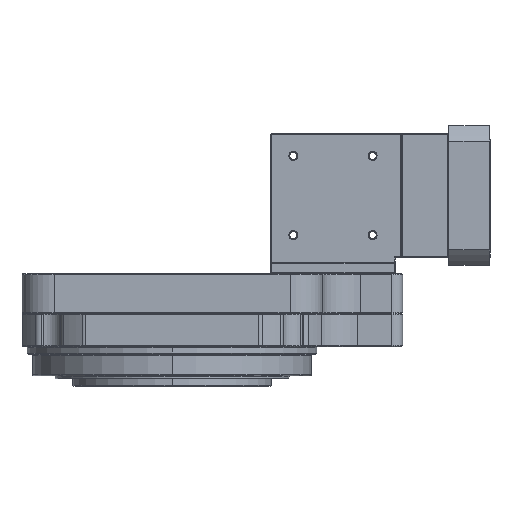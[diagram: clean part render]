
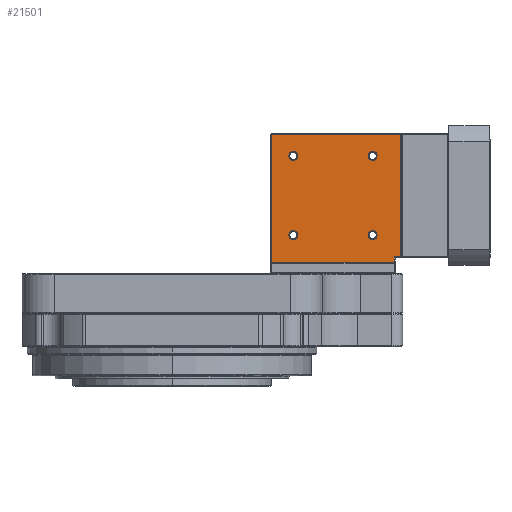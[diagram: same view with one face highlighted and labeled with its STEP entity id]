
A CAD part, left-side view. The second image highlights one B-rep face of the part: STEP entity #21501.
In plain terms, the highlighted planar face has unit normal (-1, 0, 0).
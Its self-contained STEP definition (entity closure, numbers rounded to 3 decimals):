
#66 = CARTESIAN_POINT ( 'NONE',  ( -58., -213.25, 52.75 ) ) ;
#546 = CARTESIAN_POINT ( 'NONE',  ( -58., -208., 47.75 ) ) ;
#1807 = CARTESIAN_POINT ( 'NONE',  ( -58., -108.85, 73. ) ) ;
#2057 = CARTESIAN_POINT ( 'NONE',  ( -58., -113., 73. ) ) ;
#2100 = FACE_BOUND ( 'NONE', #3775, .T. ) ;
#2598 = VECTOR ( 'NONE', #43948, 1000. ) ;
#2736 = ORIENTED_EDGE ( 'NONE', *, *, #7068, .T. ) ;
#3285 = CARTESIAN_POINT ( 'NONE',  ( -58., -191.15, 73. ) ) ;
#3775 = EDGE_LOOP ( 'NONE', ( #13476, #26279 ) ) ;
#3885 = CIRCLE ( 'NONE', #10514, 4.15 ) ;
#5199 = EDGE_LOOP ( 'NONE', ( #47277, #28101 ) ) ;
#5750 = VERTEX_POINT ( 'NONE', #30252 ) ;
#5821 = CIRCLE ( 'NONE', #20049, 4.15 ) ;
#5900 = VERTEX_POINT ( 'NONE', #49694 ) ;
#6237 = DIRECTION ( 'NONE',  ( 0., 0., 1. ) ) ;
#7068 = EDGE_CURVE ( 'NONE', #18520, #51486, #3885, .T. ) ;
#7136 = CIRCLE ( 'NONE', #27887, 4.15 ) ;
#8265 = CARTESIAN_POINT ( 'NONE',  ( -58., -117.15, 147. ) ) ;
#8283 = CARTESIAN_POINT ( 'NONE',  ( -58., -92.75, 47. ) ) ;
#8689 = FACE_BOUND ( 'NONE', #16785, .T. ) ;
#9705 = CARTESIAN_POINT ( 'NONE',  ( -58., -187., 147. ) ) ;
#9829 = DIRECTION ( 'NONE',  ( 0., 1., 0. ) ) ;
#10294 = ORIENTED_EDGE ( 'NONE', *, *, #12949, .T. ) ;
#10344 = VECTOR ( 'NONE', #46097, 1000. ) ;
#10423 = EDGE_CURVE ( 'NONE', #22875, #40086, #48003, .T. ) ;
#10514 = AXIS2_PLACEMENT_3D ( 'NONE', #28311, #47852, #36907 ) ;
#10562 = DIRECTION ( 'NONE',  ( 1., 0., 0. ) ) ;
#11048 = CARTESIAN_POINT ( 'NONE',  ( -58., -92.75, 47.75 ) ) ;
#12465 = EDGE_CURVE ( 'NONE', #43211, #5750, #16140, .T. ) ;
#12606 = AXIS2_PLACEMENT_3D ( 'NONE', #24767, #32573, #43806 ) ;
#12949 = EDGE_CURVE ( 'NONE', #19364, #5900, #19199, .T. ) ;
#13185 = DIRECTION ( 'NONE',  ( 0., 1., 0. ) ) ;
#13476 = ORIENTED_EDGE ( 'NONE', *, *, #38891, .T. ) ;
#14278 = CARTESIAN_POINT ( 'NONE',  ( -58., -207.25, 52. ) ) ;
#14323 = LINE ( 'NONE', #34095, #10344 ) ;
#14717 = DIRECTION ( 'NONE',  ( 0., 1., 0. ) ) ;
#15191 = VECTOR ( 'NONE', #6237, 1000. ) ;
#15373 = CIRCLE ( 'NONE', #20352, 4.15 ) ;
#15785 = ORIENTED_EDGE ( 'NONE', *, *, #10423, .T. ) ;
#15790 = VECTOR ( 'NONE', #24456, 1000. ) ;
#16140 = LINE ( 'NONE', #546, #15790 ) ;
#16785 = EDGE_LOOP ( 'NONE', ( #21817, #10294 ) ) ;
#16948 = AXIS2_PLACEMENT_3D ( 'NONE', #49703, #29898, #40414 ) ;
#17938 = FACE_OUTER_BOUND ( 'NONE', #28938, .T. ) ;
#18187 = ORIENTED_EDGE ( 'NONE', *, *, #12465, .T. ) ;
#18520 = VERTEX_POINT ( 'NONE', #26679 ) ;
#18873 = VERTEX_POINT ( 'NONE', #50062 ) ;
#19085 = VERTEX_POINT ( 'NONE', #1807 ) ;
#19102 = EDGE_CURVE ( 'NONE', #51486, #18520, #47493, .T. ) ;
#19199 = CIRCLE ( 'NONE', #41634, 4.15 ) ;
#19364 = VERTEX_POINT ( 'NONE', #8265 ) ;
#19831 = EDGE_CURVE ( 'NONE', #46727, #22875, #40460, .T. ) ;
#20049 = AXIS2_PLACEMENT_3D ( 'NONE', #46215, #10562, #14717 ) ;
#20352 = AXIS2_PLACEMENT_3D ( 'NONE', #9705, #45113, #28458 ) ;
#21243 = CARTESIAN_POINT ( 'NONE',  ( -58., -207.25, 52.75 ) ) ;
#21501 = ADVANCED_FACE ( 'NONE', ( #8689, #21841, #2100, #22101, #17938 ), #33816, .T. ) ;
#21532 = CIRCLE ( 'NONE', #35661, 4.15 ) ;
#21817 = ORIENTED_EDGE ( 'NONE', *, *, #50718, .T. ) ;
#21841 = FACE_BOUND ( 'NONE', #5199, .T. ) ;
#22101 = FACE_BOUND ( 'NONE', #27417, .T. ) ;
#22875 = VERTEX_POINT ( 'NONE', #66 ) ;
#23914 = EDGE_CURVE ( 'NONE', #27806, #34797, #15373, .T. ) ;
#24105 = VERTEX_POINT ( 'NONE', #44036 ) ;
#24456 = DIRECTION ( 'NONE',  ( 0., -1., 0. ) ) ;
#24767 = CARTESIAN_POINT ( 'NONE',  ( -58., -187., 73. ) ) ;
#24775 = EDGE_CURVE ( 'NONE', #24105, #19085, #7136, .T. ) ;
#25198 = DIRECTION ( 'NONE',  ( 0., 1., 0. ) ) ;
#26279 = ORIENTED_EDGE ( 'NONE', *, *, #24775, .T. ) ;
#26679 = CARTESIAN_POINT ( 'NONE',  ( -58., -182.85, 73. ) ) ;
#27417 = EDGE_LOOP ( 'NONE', ( #2736, #35602 ) ) ;
#27806 = VERTEX_POINT ( 'NONE', #34456 ) ;
#27887 = AXIS2_PLACEMENT_3D ( 'NONE', #2057, #29605, #9829 ) ;
#28101 = ORIENTED_EDGE ( 'NONE', *, *, #23914, .T. ) ;
#28230 = CARTESIAN_POINT ( 'NONE',  ( -58., -214., 52.75 ) ) ;
#28311 = CARTESIAN_POINT ( 'NONE',  ( -58., -187., 73. ) ) ;
#28458 = DIRECTION ( 'NONE',  ( 0., 1., 0. ) ) ;
#28466 = DIRECTION ( 'NONE',  ( 0., 0., 1. ) ) ;
#28938 = EDGE_LOOP ( 'NONE', ( #46528, #15785, #49742, #39477, #18187, #34941 ) ) ;
#29092 = DIRECTION ( 'NONE',  ( 1., 0., 0. ) ) ;
#29605 = DIRECTION ( 'NONE',  ( 1., 0., 0. ) ) ;
#29898 = DIRECTION ( 'NONE',  ( -1., 0., 0. ) ) ;
#30252 = CARTESIAN_POINT ( 'NONE',  ( -58., -207.25, 47.75 ) ) ;
#32573 = DIRECTION ( 'NONE',  ( 1., 0., 0. ) ) ;
#33816 = PLANE ( 'NONE',  #16948 ) ;
#34095 = CARTESIAN_POINT ( 'NONE',  ( -58., -214., 167.25 ) ) ;
#34456 = CARTESIAN_POINT ( 'NONE',  ( -58., -191.15, 147. ) ) ;
#34797 = VERTEX_POINT ( 'NONE', #49691 ) ;
#34941 = ORIENTED_EDGE ( 'NONE', *, *, #40958, .T. ) ;
#35012 = CARTESIAN_POINT ( 'NONE',  ( -58., -213.25, 167.25 ) ) ;
#35602 = ORIENTED_EDGE ( 'NONE', *, *, #19102, .T. ) ;
#35661 = AXIS2_PLACEMENT_3D ( 'NONE', #35950, #29092, #25198 ) ;
#35950 = CARTESIAN_POINT ( 'NONE',  ( -58., -113., 147. ) ) ;
#36907 = DIRECTION ( 'NONE',  ( 0., 1., 0. ) ) ;
#37505 = VECTOR ( 'NONE', #48537, 1000. ) ;
#38891 = EDGE_CURVE ( 'NONE', #19085, #24105, #5821, .T. ) ;
#39477 = ORIENTED_EDGE ( 'NONE', *, *, #42283, .T. ) ;
#40086 = VERTEX_POINT ( 'NONE', #35012 ) ;
#40414 = DIRECTION ( 'NONE',  ( 0., 1., 0. ) ) ;
#40460 = LINE ( 'NONE', #28230, #37505 ) ;
#40683 = CARTESIAN_POINT ( 'NONE',  ( -58., -213.25, 168. ) ) ;
#40958 = EDGE_CURVE ( 'NONE', #5750, #46727, #41881, .T. ) ;
#41634 = AXIS2_PLACEMENT_3D ( 'NONE', #48842, #49350, #13185 ) ;
#41881 = LINE ( 'NONE', #14278, #15191 ) ;
#42158 = DIRECTION ( 'NONE',  ( 0., 1., 0. ) ) ;
#42177 = AXIS2_PLACEMENT_3D ( 'NONE', #50239, #45304, #42158 ) ;
#42283 = EDGE_CURVE ( 'NONE', #18873, #43211, #44207, .T. ) ;
#43211 = VERTEX_POINT ( 'NONE', #11048 ) ;
#43806 = DIRECTION ( 'NONE',  ( 0., 1., 0. ) ) ;
#43948 = DIRECTION ( 'NONE',  ( 0., 0., -1. ) ) ;
#44036 = CARTESIAN_POINT ( 'NONE',  ( -58., -117.15, 73. ) ) ;
#44207 = LINE ( 'NONE', #8283, #2598 ) ;
#45113 = DIRECTION ( 'NONE',  ( 1., 0., 0. ) ) ;
#45304 = DIRECTION ( 'NONE',  ( 1., 0., 0. ) ) ;
#45970 = EDGE_CURVE ( 'NONE', #40086, #18873, #14323, .T. ) ;
#46097 = DIRECTION ( 'NONE',  ( 0., 1., 0. ) ) ;
#46215 = CARTESIAN_POINT ( 'NONE',  ( -58., -113., 73. ) ) ;
#46528 = ORIENTED_EDGE ( 'NONE', *, *, #19831, .T. ) ;
#46727 = VERTEX_POINT ( 'NONE', #21243 ) ;
#47159 = CIRCLE ( 'NONE', #42177, 4.15 ) ;
#47277 = ORIENTED_EDGE ( 'NONE', *, *, #49360, .T. ) ;
#47493 = CIRCLE ( 'NONE', #12606, 4.15 ) ;
#47852 = DIRECTION ( 'NONE',  ( 1., 0., 0. ) ) ;
#48003 = LINE ( 'NONE', #40683, #50325 ) ;
#48537 = DIRECTION ( 'NONE',  ( 0., -1., 0. ) ) ;
#48842 = CARTESIAN_POINT ( 'NONE',  ( -58., -113., 147. ) ) ;
#49350 = DIRECTION ( 'NONE',  ( 1., 0., 0. ) ) ;
#49360 = EDGE_CURVE ( 'NONE', #34797, #27806, #47159, .T. ) ;
#49691 = CARTESIAN_POINT ( 'NONE',  ( -58., -182.85, 147. ) ) ;
#49694 = CARTESIAN_POINT ( 'NONE',  ( -58., -108.85, 147. ) ) ;
#49703 = CARTESIAN_POINT ( 'NONE',  ( -58., -214., 168. ) ) ;
#49742 = ORIENTED_EDGE ( 'NONE', *, *, #45970, .T. ) ;
#50062 = CARTESIAN_POINT ( 'NONE',  ( -58., -92.75, 167.25 ) ) ;
#50239 = CARTESIAN_POINT ( 'NONE',  ( -58., -187., 147. ) ) ;
#50325 = VECTOR ( 'NONE', #28466, 1000. ) ;
#50718 = EDGE_CURVE ( 'NONE', #5900, #19364, #21532, .T. ) ;
#51486 = VERTEX_POINT ( 'NONE', #3285 ) ;
